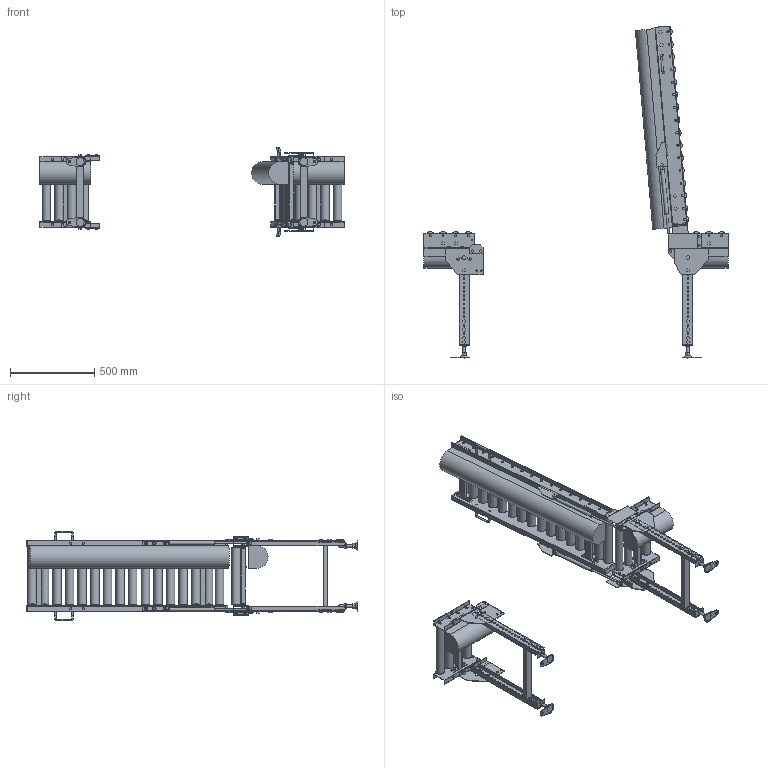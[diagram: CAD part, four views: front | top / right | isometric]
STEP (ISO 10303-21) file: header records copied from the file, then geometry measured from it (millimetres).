
FILE_DESCRIPTION (( 'STEP AP214' ), '1' );
FILE_NAME ('MCD50HU-L-1200-355-75.STEP', '2022-11-17T04:23:44', ( '' ), ( '' ), 'SwSTEP 2.0', 'SolidWorks 2017', '' );
FILE_SCHEMA (( 'AUTOMOTIVE_DESIGN' ));
Length unit declared in the file: millimetre
Products named in the file (1): MCD50HU-L-1200-355-75
Bounding box: 1800 x 1964.71 x 531.4 mm (x, y, z)
Volume: 47096765 mm3; surface area: 4742598.5 mm2
Topology: 5 solids, 31 shells, 2667 faces, 6668 edges, 4239 vertices
Faces by surface type: plane 2168, cylinder 481, cone 10, torus 8
Full cylindrical faces by diameter (mm): 8 x8, 8.5 x8, 9 x20, 10 x58, 10.5 x96, 11 x8, 12 x50, 13 x12, 14 x4, 15 x6, 15.4 x2, 15.7 x2, 16 x10, 17 x4, 18 x6, 18.4 x28, 18.5 x8, 21 x12, 22 x2, 50.8 x24
Entity records: 77244 total; most frequent: CARTESIAN_POINT 13189, DIRECTION 12944, ORIENTED_EDGE 12180, EDGE_CURVE 6090, VECTOR 4564, LINE 4564, AXIS2_PLACEMENT_3D 4190, VERTEX_POINT 4047
